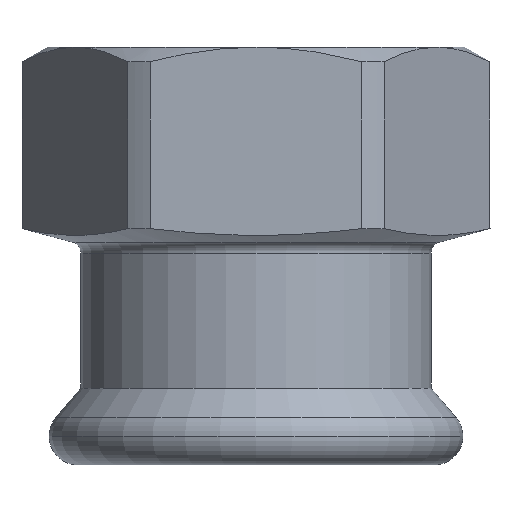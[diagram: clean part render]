
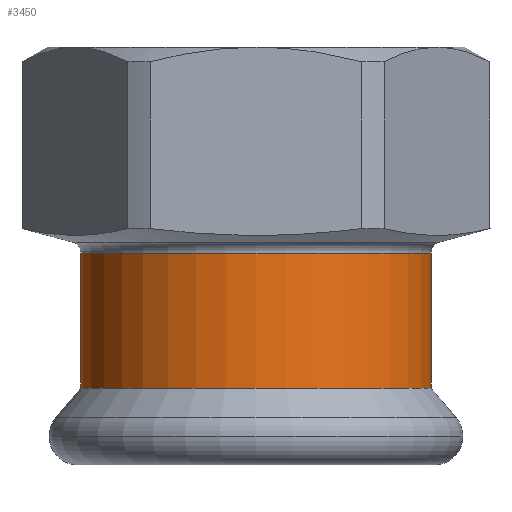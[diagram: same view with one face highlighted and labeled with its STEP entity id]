
A CAD part, front view. The second image highlights one B-rep face of the part: STEP entity #3450.
In plain terms, the highlighted cylindrical face has radius 22.65 mm (diameter 45.3 mm), a partial arc.
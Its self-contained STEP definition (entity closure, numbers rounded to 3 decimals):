
#2900=CARTESIAN_POINT('',(65.141,52.581,-1.151));
#2910=VERTEX_POINT('',#2900);
#2940=CARTESIAN_POINT('',(42.491,52.581,-1.151));
#2950=DIRECTION('',(0.,0.,1.));
#2960=DIRECTION('',(1.,0.,0.));
#2970=AXIS2_PLACEMENT_3D('',#2940,#2950,#2960);
#2980=CIRCLE('',#2970,22.65);
#2990=CARTESIAN_POINT('',(19.841,52.581,-1.151));
#3000=VERTEX_POINT('',#2990);
#3010=EDGE_CURVE('',#3000,#2910,#2980,.T.);
#3140=CARTESIAN_POINT('',(42.491,52.581,-9.284));
#3150=DIRECTION('',(0.,0.,1.));
#3160=DIRECTION('',(1.,0.,0.));
#3170=AXIS2_PLACEMENT_3D('',#3140,#3150,#3160);
#3180=CYLINDRICAL_SURFACE('',#3170,22.65);
#3190=CARTESIAN_POINT('',(19.841,52.581,-9.284));
#3200=DIRECTION('',(0.,0.,1.));
#3210=VECTOR('',#3200,1.);
#3220=LINE('',#3190,#3210);
#3230=CARTESIAN_POINT('',(19.841,52.581,-18.567));
#3240=VERTEX_POINT('',#3230);
#3250=EDGE_CURVE('',#3240,#3000,#3220,.T.);
#3260=ORIENTED_EDGE('',*,*,#3250,.F.);
#3270=ORIENTED_EDGE('',*,*,#3010,.F.);
#3280=CARTESIAN_POINT('',(65.141,52.581,-9.284));
#3290=DIRECTION('',(0.,0.,1.));
#3300=VECTOR('',#3290,1.);
#3310=LINE('',#3280,#3300);
#3320=CARTESIAN_POINT('',(65.141,52.581,-18.567));
#3330=VERTEX_POINT('',#3320);
#3340=EDGE_CURVE('',#3330,#2910,#3310,.T.);
#3350=ORIENTED_EDGE('',*,*,#3340,.T.);
#3360=CARTESIAN_POINT('',(42.491,52.581,-18.567));
#3370=DIRECTION('',(0.,0.,-1.));
#3380=DIRECTION('',(-1.,0.,0.));
#3390=AXIS2_PLACEMENT_3D('',#3360,#3370,#3380);
#3400=CIRCLE('',#3390,22.65);
#3410=EDGE_CURVE('',#3330,#3240,#3400,.T.);
#3420=ORIENTED_EDGE('',*,*,#3410,.F.);
#3430=EDGE_LOOP('',(#3420,#3350,#3270,#3260));
#3440=FACE_OUTER_BOUND('',#3430,.T.);
#3450=ADVANCED_FACE('',(#3440),#3180,.T.);
